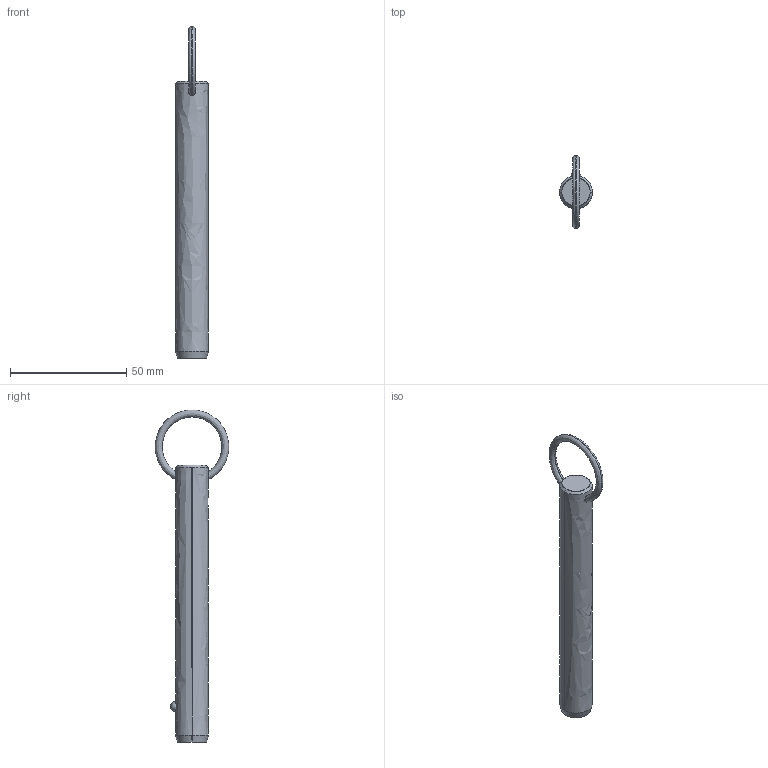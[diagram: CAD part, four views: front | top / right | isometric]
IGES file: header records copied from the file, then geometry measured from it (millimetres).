
Start section: SolidWorks IGES file using analytic representation for surfaces
Global section: file name: C:\Users\liam_\OneDrive\Documents\WORK\Work for WixRoyd\Job Files\J-00019 - Matt Davis CAD Checking\04. CAD Drawings\automotion20190605\P1250.2_v2\P1250.2_v2_20190729_IGES\P1250.056-370.igs; native system: SolidWorks 2017; preprocessor: SolidWorks 2017; author: liam_; date: 190729.232125; units: millimetre
Bounding box: 14.2 x 31.67 x 143.09 mm (x, y, z)
Surface area: 6287.9 mm2 (no closed solid volume)
Topology: 0 solids, 0 shells, 12 faces, 285 edges, 283 vertices
Faces by surface type: revolution 8, bspline 4
